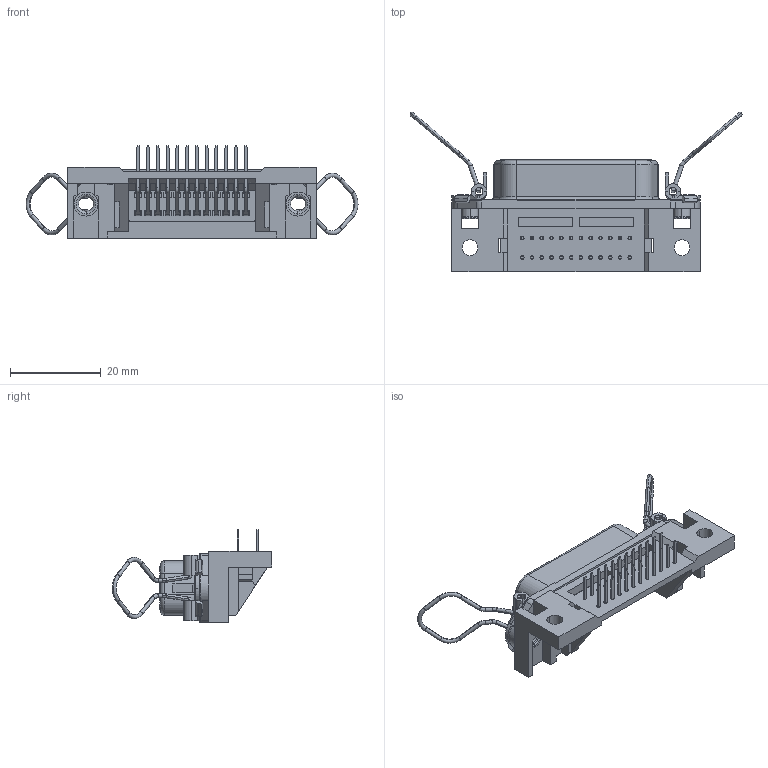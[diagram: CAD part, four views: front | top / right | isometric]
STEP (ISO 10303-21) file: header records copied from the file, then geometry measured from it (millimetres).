
FILE_DESCRIPTION (( 'STEP AP203' ), '1' );
FILE_NAME ('57LE-40240-7700-FA.STEP', '2021-05-17T02:31:49', ( '' ), ( '' ), 'SwSTEP 2.0', 'SolidWorks 2018', '' );
FILE_SCHEMA (( 'CONFIG_CONTROL_DESIGN' ));
Length unit declared in the file: millimetre
Products named in the file (1): 57LE-40240-7700-FA
Bounding box: 73.26 x 35.16 x 20.43 mm (x, y, z)
Volume: 8042.3 mm3; surface area: 10266 mm2
Topology: 1 solids, 5 shells, 1319 faces, 3612 edges, 2290 vertices
Faces by surface type: plane 911, cylinder 270, torus 62, cone 48, bspline 28
Entity records: 41901 total; most frequent: CARTESIAN_POINT 7938, ORIENTED_EDGE 7224, DIRECTION 6926, EDGE_CURVE 3612, LINE 2714, VECTOR 2714, VERTEX_POINT 2290, AXIS2_PLACEMENT_3D 2106
